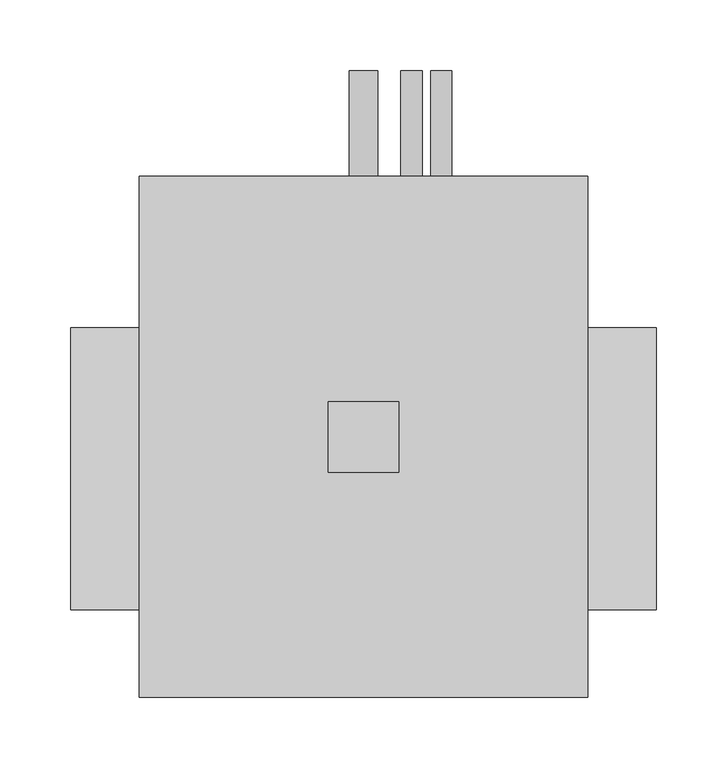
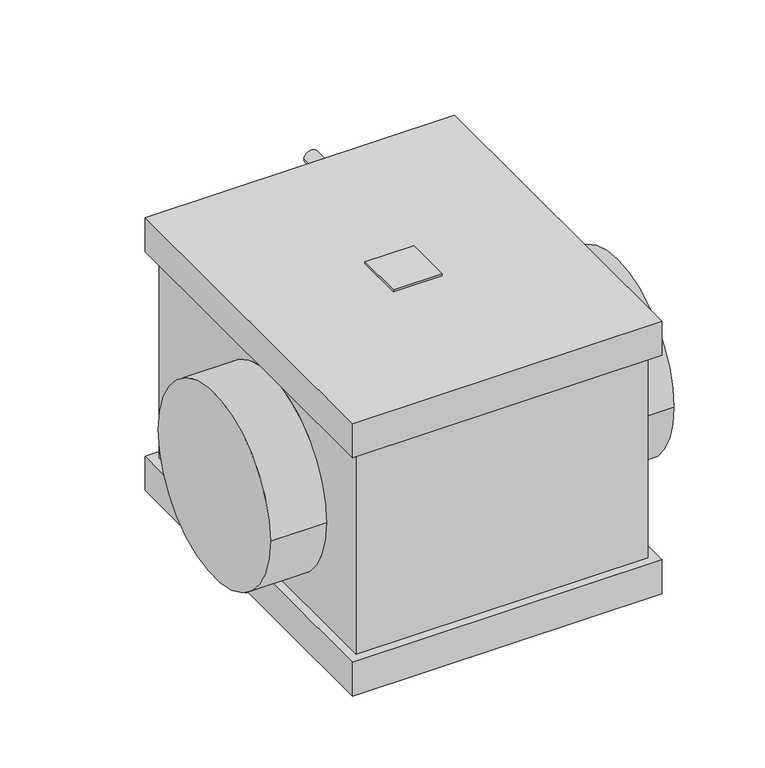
"""IFC4 building model written with IfcOpenShell, lengths in millimetres: proxy geometry, KORF_Охладитель_Водяной_Круглый_Правый_KWLO : KWLO 200/2."""

import ifcopenshell
import ifcopenshell.guid

model = None  # the IFC model being written
_history = None  # IfcOwnerHistory: only IFC2X3 demands one
_inside = {}  # id of a spatial element -> (the spatial element, [elements in it])
_under = {}  # id of a project, library or spatial element -> (it, [spatial elements below it])
_declared = {}  # id of a project -> (the project, [libraries it declares])
_typed = {}  # id of a type object -> (the type object, [elements of that type])
_made_of = {}  # id of a material, layer set ... -> (it, [elements and type objects made of it])


def new_model(schema):
    """Start an empty IFC model of exactly this schema.

    Asked for "IFC4X3", IfcOpenShell would pick the latest addendum, in which some entities
    have other attributes; the version numbers below select the first issue.
    IFC2X3 requires an IfcOwnerHistory on every rooted entity: one is made here for all.
    """
    global model, _history
    if schema == "IFC4X3":
        model = ifcopenshell.file(schema_version=(4, 3, 0, 0))
    else:
        model = ifcopenshell.file(schema=schema)
    _inside.clear()
    _under.clear()
    _declared.clear()
    _typed.clear()
    _made_of.clear()
    _history = None
    if model.schema == "IFC2X3":
        org = make("IfcOrganization", Name="unknown")
        user = make(
            "IfcPersonAndOrganization",
            ThePerson=make("IfcPerson", FamilyName="unknown"),
            TheOrganization=org,
        )
        app = make(
            "IfcApplication",
            ApplicationDeveloper=org,
            Version="unknown",
            ApplicationFullName="unknown",
            ApplicationIdentifier="unknown",
        )
        _history = make(
            "IfcOwnerHistory",
            OwningUser=user,
            OwningApplication=app,
            ChangeAction="ADDED",
            CreationDate=0,
        )
    return model


def make(cls, **values):
    """One entity of the class cls with the attributes given. An attribute that is None is left unset."""
    return model.create_entity(
        cls, **{name: value for name, value in values.items() if value is not None}
    )


def rooted(cls, **values):
    """An entity with a GlobalId (a new one), such as an element, a storey or a relation."""
    return make(cls, GlobalId=ifcopenshell.guid.new(), OwnerHistory=_history, **values)


def si_unit(unit_type, name, prefix=None):
    """IfcSIUnit, for example si_unit("LENGTHUNIT", "METRE", prefix="MILLI")."""
    return make("IfcSIUnit", UnitType=unit_type, Prefix=prefix, Name=name)


def assignment(units):
    """IfcUnitAssignment: the units of a project."""
    return None if units is None else make("IfcUnitAssignment", Units=units)


def point(xyz):
    """IfcCartesianPoint."""
    return None if xyz is None else make("IfcCartesianPoint", Coordinates=xyz)


def direction(xyz):
    """IfcDirection."""
    return None if xyz is None else make("IfcDirection", DirectionRatios=xyz)


def frame(location, z_axis=None, x_axis=None):
    """IfcAxis2Placement3D, a coordinate frame: its origin and axes. An axis left out is left unset."""
    return make(
        "IfcAxis2Placement3D",
        Location=point(location),
        Axis=direction(z_axis),
        RefDirection=direction(x_axis),
    )


def frame_2d(location, x_axis=None):
    """IfcAxis2Placement2D, a coordinate frame in the plane: its origin and x axis."""
    return make(
        "IfcAxis2Placement2D", Location=point(location), RefDirection=direction(x_axis)
    )


def origin():
    """The frame at (0, 0, 0) with its axes left unset."""
    return frame((0.0, 0.0, 0.0))


def place(relative_to, where):
    """IfcLocalPlacement: puts the frame where relative to a parent placement (None: the world)."""
    return make(
        "IfcLocalPlacement", PlacementRelTo=relative_to, RelativePlacement=where
    )


def context(
    kind, dimensions, precision=None, world=None, true_north=None, identifier=None
):
    """IfcGeometricRepresentationContext, for example the 3D "Model" context."""
    return make(
        "IfcGeometricRepresentationContext",
        ContextIdentifier=identifier,
        ContextType=kind,
        CoordinateSpaceDimension=dimensions,
        Precision=precision,
        WorldCoordinateSystem=world,
        TrueNorth=true_north,
    )


def project(units=None, contexts=None):
    """IfcProject with its units and contexts."""
    return rooted(
        "IfcProject",
        Name="project",
        RepresentationContexts=contexts,
        UnitsInContext=assignment(units),
    )


def spatial(cls, under=None, at=None, **own):
    """A site, building, storey or space (cls), placed at a placement, below another one or the project."""
    s = rooted(cls, ObjectPlacement=at, **own)
    if under is not None:
        _under.setdefault(under.id(), (under, []))[1].append(s)
    return s


def polyline(points):
    """IfcPolyline through the points."""
    return make("IfcPolyline", Points=[point(p) for p in points])


def circle_curve(where, radius):
    """IfcCircle in the frame where."""
    return make("IfcCircle", Position=where, Radius=radius)


def trimmed(basis, trim1, trim2, sense, master):
    """IfcTrimmedCurve: the piece of a basis curve between two trims."""
    return make(
        "IfcTrimmedCurve",
        BasisCurve=basis,
        Trim1=trim1,
        Trim2=trim2,
        SenseAgreement=sense,
        MasterRepresentation=master,
    )


def segment(curve, same_sense, transition):
    """IfcCompositeCurveSegment."""
    return make(
        "IfcCompositeCurveSegment",
        Transition=transition,
        SameSense=same_sense,
        ParentCurve=curve,
    )


def composite_curve(segments, self_intersect=None):
    """IfcCompositeCurve: segments joined end to end."""
    return make("IfcCompositeCurve", Segments=segments, SelfIntersect=self_intersect)


def outline(outer, holes=None, kind="AREA"):
    """IfcArbitraryClosedProfileDef: a profile drawn as a closed curve; with holes, ...WithVoids."""
    if holes is None:
        return make("IfcArbitraryClosedProfileDef", ProfileType=kind, OuterCurve=outer)
    return make(
        "IfcArbitraryProfileDefWithVoids",
        ProfileType=kind,
        OuterCurve=outer,
        InnerCurves=holes,
    )


def extrude(swept, where, along, depth):
    """IfcExtrudedAreaSolid: the profile swept, set in the frame where, extruded along a direction by depth."""
    return make(
        "IfcExtrudedAreaSolid",
        SweptArea=swept,
        Position=where,
        ExtrudedDirection=direction(along),
        Depth=depth,
    )


def shape(context_of_items, identifier, shape_type, items):
    """IfcShapeRepresentation: the items that make up one representation, for example the "Body"."""
    return make(
        "IfcShapeRepresentation",
        ContextOfItems=context_of_items,
        RepresentationIdentifier=identifier,
        RepresentationType=shape_type,
        Items=items,
    )


def source(mapping_origin, context_of_items, identifier, shape_type, items):
    """IfcRepresentationMap: a shape defined once, which mapped items show again and again."""
    return make(
        "IfcRepresentationMap",
        MappingOrigin=mapping_origin,
        MappedRepresentation=shape(context_of_items, identifier, shape_type, items),
    )


def transform(
    local_origin,
    x_axis=None,
    y_axis=None,
    z_axis=None,
    scale=None,
    scale2=None,
    scale3=None,
    uniform=True,
):
    """IfcCartesianTransformationOperator3D, or its non-uniform kind. x_axis, y_axis, z_axis: its Axis1, 2, 3."""
    if uniform:
        return make(
            "IfcCartesianTransformationOperator3D",
            Axis1=direction(x_axis),
            Axis2=direction(y_axis),
            LocalOrigin=point(local_origin),
            Scale=scale,
            Axis3=direction(z_axis),
        )
    return make(
        "IfcCartesianTransformationOperator3DnonUniform",
        Axis1=direction(x_axis),
        Axis2=direction(y_axis),
        LocalOrigin=point(local_origin),
        Scale=scale,
        Axis3=direction(z_axis),
        Scale2=scale2,
        Scale3=scale3,
    )


def mapped(mapping_source, mapping_target):
    """IfcMappedItem: shows the shape of a source again, moved by a transform."""
    return make(
        "IfcMappedItem", MappingSource=mapping_source, MappingTarget=mapping_target
    )


def made_of(thing, what):
    """Note that an element or type object is made of a material, layer set ...; save() writes the relation."""
    if what is not None:
        _made_of.setdefault(what.id(), (what, []))[1].append(thing)
    return thing


def element(
    cls,
    number,
    at=None,
    inside=None,
    cuts=None,
    type_object=None,
    material=None,
    context=None,
    identifier="Body",
    shape_type=None,
    held_by="IfcProductDefinitionShape",
    body=None,
    shapes=None,
    **own,
):
    """One element of the class cls, such as IfcWall. Its Tag is "e" and its number.

    at: its placement. inside: the storey or other place that contains it. cuts: it is an
    opening in that element (IfcRelVoidsElement). A single representation is given by context,
    identifier, shape_type and body (its items); several are given by shapes. held_by: the class
    of the entity that holds the representations. save() writes the other relations.
    """
    e = rooted(cls, Tag="e%d" % number, ObjectPlacement=at, **own)
    if body is not None:
        shapes = [shape(context, identifier, shape_type, body)]
    if shapes is not None:
        e.Representation = make(held_by, Representations=shapes)
    if inside is not None:
        _inside.setdefault(inside.id(), (inside, []))[1].append(e)
    if cuts is not None:
        rooted(
            "IfcRelVoidsElement", RelatingBuildingElement=cuts, RelatedOpeningElement=e
        )
    if type_object is not None:
        _typed.setdefault(type_object.id(), (type_object, []))[1].append(e)
    return made_of(e, material)


def aggregate(whole, parts):
    """IfcRelAggregates: a whole, such as a stair, and the parts it consists of."""
    return rooted("IfcRelAggregates", RelatingObject=whole, RelatedObjects=parts)


def save(model, path):
    """Write the relations noted so far, then the file.

    IfcRelAggregates (storeys below a building ...), IfcRelContainedInSpatialStructure (elements
    in a storey), IfcRelDefinesByType, IfcRelAssociatesMaterial and IfcRelDeclares: one each for
    every whole, place, type object, material and project.
    """
    for whole, parts in _under.values():
        aggregate(whole, parts)
    for where, things in _inside.values():
        rooted(
            "IfcRelContainedInSpatialStructure",
            RelatedElements=things,
            RelatingStructure=where,
        )
    for kind, things in _typed.values():
        rooted("IfcRelDefinesByType", RelatedObjects=things, RelatingType=kind)
    for what, things in _made_of.values():
        rooted("IfcRelAssociatesMaterial", RelatedObjects=things, RelatingMaterial=what)
    for by, libraries in _declared.values():
        rooted("IfcRelDeclares", RelatingContext=by, RelatedDefinitions=libraries)
    model.write(path)


def plane_surface(at):
    """IfcPlane: the flat surface through the origin of the frame at, square to its z axis."""
    return make("IfcPlane", Position=at)


def cylinder_surface(at, radius):
    """IfcCylindricalSurface: all points at the distance radius from the z axis of the frame at."""
    return make("IfcCylindricalSurface", Position=at, Radius=radius)


def advanced_brep(points, edges, surfaces, faces):
    """IfcAdvancedBrep: a solid bounded by faces that lie on surfaces and meet in shared edges.

    An edge is (start, end): straight between two places in points (the first is 0);
    or (start, end, curve); or (start, end, curve, False) where it runs against its curve.
    A face is (place in surfaces, loops), or (place, loops, False) where it looks against
    its surface's normal. A loop lists edges by number (the first is 1), with a minus sign
    where the edge is run from its end to its start. The first loop is the outer one.
    """
    corners = [point(p) for p in points]
    vertices = [make("IfcVertexPoint", VertexGeometry=c) for c in corners]
    made = []
    for start, end, *more in edges:
        made.append(
            make(
                "IfcEdgeCurve",
                EdgeStart=vertices[start],
                EdgeEnd=vertices[end],
                EdgeGeometry=more[0] if more else make("IfcPolyline", Points=[corners[start], corners[end]]),
                SameSense=more[1] if len(more) > 1 else True,
            )
        )
    hull = []
    for where, loops, *sense in faces:
        bounds = []
        for j, loop in enumerate(loops):
            ring = [make("IfcOrientedEdge", EdgeElement=made[abs(k) - 1], Orientation=k > 0) for k in loop]
            bounds.append(
                make(
                    "IfcFaceOuterBound" if j == 0 else "IfcFaceBound",
                    Bound=make("IfcEdgeLoop", EdgeList=ring),
                    Orientation=True,
                )
            )
        hull.append(make("IfcAdvancedFace", Bounds=bounds, FaceSurface=surfaces[where], SameSense=sense[0] if sense else True))
    return make("IfcAdvancedBrep", Outer=make("IfcClosedShell", CfsFaces=hull))


def mechanical_equipment_e60fcfd1(model_context):
    return source(origin(), model_context, "Body", "SolidModel", [
        extrude(outline(polyline([(232.5, 47.5), (232.5, -2.5), (182.5, -2.5), (182.5, 47.5), (232.5, 47.5)])), frame((0.0, 0.0, 148.0), z_axis=(0.0, 0.0, 1.0), x_axis=(1.0, 0.0, 0.0)), (0.0, 0.0, 1.0), 2.0),
        advanced_brep(
        [(415.0, -100.0, 0.0), (415.0, 100.0, 0.0), (0.0, -100.0, 0.0), (0.0, 100.0, 0.0), (357.5, -100.0, 0.0), (357.5, 100.0, 0.0), (57.5, 100.0, 0.0), (57.5, -100.0, 0.0), (357.5, -153.0, -111.0), (357.5, 198.0, -111.0), (357.5, 198.0, 111.0), (357.5, -153.0, 111.0), (57.5, 198.0, -111.0), (57.5, -153.0, -111.0), (57.5, -153.0, 111.0), (57.5, 198.0, 111.0), (366.5, 207.0, -148.0), (366.5, -162.0, -148.0), (48.5, -162.0, -148.0), (48.5, 207.0, -148.0), (366.5, -162.0, 148.0), (366.5, 207.0, 148.0), (48.5, 207.0, 148.0), (48.5, -162.0, 148.0), (366.5, 207.0, -111.0), (366.5, -162.0, -111.0), (48.5, -162.0, -111.0), (48.5, 207.0, -111.0), (366.5, 207.0, 111.0), (366.5, -162.0, 111.0), (48.5, -162.0, 111.0), (48.5, 207.0, 111.0)],
        [
            (0, 1, circle_curve(frame((415.0, 0.0, 0.0), z_axis=(1.0, 0.0, 0.0), x_axis=(0.0, 1.0, 0.0)), 100.0)),
            (1, 0, circle_curve(frame((415.0, 0.0, 0.0), z_axis=(1.0, 0.0, 0.0), x_axis=(0.0, 1.0, 0.0)), 100.0)),
            (2, 3, circle_curve(frame((0.0, 0.0, 0.0), z_axis=(-1.0, 0.0, 0.0), x_axis=(0.0, 1.0, 0.0)), 100.0)),
            (3, 2, circle_curve(frame((0.0, 0.0, 0.0), z_axis=(-1.0, 0.0, 0.0), x_axis=(0.0, 1.0, 0.0)), 100.0)),
            (0, 4),
            (4, 5, circle_curve(frame((357.5, 0.0, 0.0), z_axis=(1.0, 0.0, 0.0), x_axis=(0.0, 1.0, 0.0)), 100.0)),
            (5, 1),
            (3, 6),
            (6, 7, circle_curve(frame((57.5, 0.0, 0.0), z_axis=(-1.0, 0.0, 0.0), x_axis=(0.0, 1.0, 0.0)), 100.0)),
            (7, 2),
            (5, 4, circle_curve(frame((357.5, 0.0, 0.0), z_axis=(1.0, 0.0, 0.0), x_axis=(0.0, 1.0, 0.0)), 100.0)),
            (7, 6, circle_curve(frame((57.5, 0.0, 0.0), z_axis=(-1.0, 0.0, 0.0), x_axis=(0.0, 1.0, 0.0)), 100.0)),
            (8, 9),
            (9, 10),
            (10, 11),
            (11, 8),
            (12, 13),
            (13, 14),
            (14, 15),
            (15, 12),
            (13, 8),
            (11, 14),
            (16, 17),
            (17, 18),
            (18, 19),
            (19, 16),
            (9, 12),
            (15, 10),
            (20, 21),
            (21, 22),
            (22, 23),
            (23, 20),
            (16, 24),
            (24, 25),
            (25, 17),
            (25, 26),
            (26, 18),
            (26, 27),
            (27, 19),
            (24, 27),
            (28, 21),
            (20, 29),
            (29, 28),
            (23, 30),
            (30, 29),
            (22, 31),
            (31, 30),
            (28, 31),
        ],
        [
            plane_surface(frame((415.0, 100.0, 0.0), z_axis=(1.0, 0.0, 0.0), x_axis=(0.0, 0.0, 1.0))),
            plane_surface(frame((0.0, 100.0, 0.0), z_axis=(-1.0, 0.0, 0.0), x_axis=(0.0, 0.0, -1.0))),
            cylinder_surface(frame((0.0, 0.0, 0.0), z_axis=(1.0, 0.0, 0.0), x_axis=(0.0, 1.0, 0.0)), 100.0),
            plane_surface(frame((357.5, -153.0, 148.0), z_axis=(1.0, 0.0, 0.0), x_axis=(0.0, 0.0, -1.0))),
            plane_surface(frame((57.5, -153.0, 148.0), z_axis=(-1.0, 0.0, 0.0), x_axis=(0.0, 0.0, 1.0))),
            plane_surface(frame((357.5, -153.0, 148.0), z_axis=(0.0, -1.0, 0.0), x_axis=(-1.0, 0.0, 0.0))),
            plane_surface(frame((357.5, -153.0, -148.0), z_axis=(0.0, 0.0, -1.0), x_axis=(-1.0, 0.0, 0.0))),
            plane_surface(frame((357.5, 198.0, -148.0), z_axis=(0.0, 1.0, 0.0), x_axis=(-1.0, 0.0, 0.0))),
            plane_surface(frame((357.5, 198.0, 148.0), z_axis=(0.0, 0.0, 1.0), x_axis=(-1.0, 0.0, 0.0))),
            plane_surface(frame((366.5, 207.0, -111.0), z_axis=(1.0, 0.0, 0.0), x_axis=(0.0, -1.0, 0.0))),
            plane_surface(frame((366.5, -162.0, -111.0), z_axis=(0.0, -1.0, 0.0), x_axis=(-1.0, 0.0, 0.0))),
            plane_surface(frame((48.5, -162.0, -111.0), z_axis=(-1.0, 0.0, 0.0), x_axis=(0.0, 1.0, 0.0))),
            plane_surface(frame((57.5, 198.0, -111.0), z_axis=(0.0, 0.0, 1.0), x_axis=(1.0, 0.0, 0.0))),
            plane_surface(frame((48.5, 207.0, -111.0), z_axis=(0.0, 1.0, 0.0), x_axis=(1.0, 0.0, 0.0))),
            plane_surface(frame((366.5, 207.0, 148.0), z_axis=(1.0, 0.0, 0.0), x_axis=(0.0, -1.0, 0.0))),
            plane_surface(frame((366.5, -162.0, 148.0), z_axis=(0.0, -1.0, 0.0), x_axis=(-1.0, 0.0, 0.0))),
            plane_surface(frame((48.5, -162.0, 148.0), z_axis=(-1.0, 0.0, 0.0), x_axis=(0.0, 1.0, 0.0))),
            plane_surface(frame((48.5, 207.0, 148.0), z_axis=(0.0, 1.0, 0.0), x_axis=(1.0, 0.0, 0.0))),
            plane_surface(frame((48.5, 207.0, 111.0), z_axis=(0.0, 0.0, -1.0), x_axis=(1.0, 0.0, 0.0))),
        ],
        [
            (0, [[1, 2]]),
            (1, [[3, 4]]),
            (2, [[-1, 5, 6, 7]]),
            (2, [[-4, 8, 9, 10]]),
            (2, [[-2, -7, 11, -5]]),
            (2, [[-3, -10, 12, -8]]),
            (3, [[13, 14, 15, 16], [-6, -11]]),
            (4, [[17, 18, 19, 20], [-9, -12]]),
            (5, [[21, -16, 22, -18]]),
            (6, [[23, 24, 25, 26]]),
            (7, [[27, -20, 28, -14]]),
            (8, [[29, 30, 31, 32]]),
            (9, [[33, 34, 35, -23]]),
            (10, [[-35, 36, 37, -24]]),
            (11, [[-37, 38, 39, -25]]),
            (12, [[-34, 40, -38, -36], [-13, -21, -17, -27]]),
            (13, [[-33, -26, -39, -40]]),
            (14, [[41, -29, 42, 43]]),
            (15, [[-42, -32, 44, 45]]),
            (16, [[-44, -31, 46, 47]]),
            (17, [[-41, 48, -46, -30]]),
            (18, [[-43, -45, -47, -48], [-15, -28, -19, -22]]),
        ],
    ),
        extrude(outline(composite_curve([segment(trimmed(circle_curve(frame_2d((-94.0, 241.5)), 7.5), [point((-94.0, 234.0))], [point((-94.0, 249.0))], False, "CARTESIAN"), True, "CONTINUOUS"), segment(trimmed(circle_curve(frame_2d((-94.0, 241.5)), 7.5), [point((-94.0, 249.0))], [point((-94.0, 234.0))], False, "CARTESIAN"), True, "CONTINUOUS")], self_intersect=False)), frame((0.0, 198.0, 0.0), z_axis=(0.0, 1.0, 0.0), x_axis=(0.0, 0.0, 1.0)), (0.0, 0.0, 1.0), 84.0),
        extrude(outline(composite_curve([segment(trimmed(circle_curve(frame_2d((94.0, 262.5)), 7.5), [point((94.0, 255.0))], [point((94.0, 270.0))], False, "CARTESIAN"), True, "CONTINUOUS"), segment(trimmed(circle_curve(frame_2d((94.0, 262.5)), 7.5), [point((94.0, 270.0))], [point((94.0, 255.0))], False, "CARTESIAN"), True, "CONTINUOUS")], self_intersect=False)), frame((0.0, 198.0, 0.0), z_axis=(0.0, 1.0, 0.0), x_axis=(0.0, 0.0, 1.0)), (0.0, 0.0, 1.0), 84.0),
        extrude(outline(composite_curve([segment(trimmed(circle_curve(frame_2d((-129.0, 207.5)), 10.0), [point((-129.0, 197.5))], [point((-129.0, 217.5))], False, "CARTESIAN"), True, "CONTINUOUS"), segment(trimmed(circle_curve(frame_2d((-129.0, 207.5)), 10.0), [point((-129.0, 217.5))], [point((-129.0, 197.5))], False, "CARTESIAN"), True, "CONTINUOUS")], self_intersect=False)), frame((0.0, 207.0, 0.0), z_axis=(0.0, 1.0, 0.0), x_axis=(0.0, 0.0, 1.0)), (0.0, 0.0, 1.0), 75.0),
    ])


if __name__ == "__main__":
    model = new_model("IFC4")
    model_context = context("Model", 3, world=origin())
    ifc_project = project(units=[si_unit("LENGTHUNIT", "METRE", prefix="MILLI")], contexts=[model_context])
    site = spatial("IfcSite", under=ifc_project)
    building = spatial("IfcBuilding", under=site)
    placement = place(None, origin())
    mechanical_equipment_shape = mechanical_equipment_e60fcfd1(model_context)
    element("IfcBuildingElementProxy", 1, Name="KORF_Охладитель_Водяной_Круглый_Правый_KWLO : KWLO 200/2", ObjectType="KORF_Охладитель_Водяной_Круглый_Правый_KWLO : KWLO 200/2", at=placement, inside=building, context=model_context, shape_type="MappedRepresentation", body=[
        mapped(mechanical_equipment_shape, transform((0.0, 0.0, 0.0), x_axis=(1.0, 0.0, 0.0), y_axis=(0.0, 1.0, 0.0), z_axis=(0.0, 0.0, 1.0))),
    ])
    save(model, "model.ifc")
